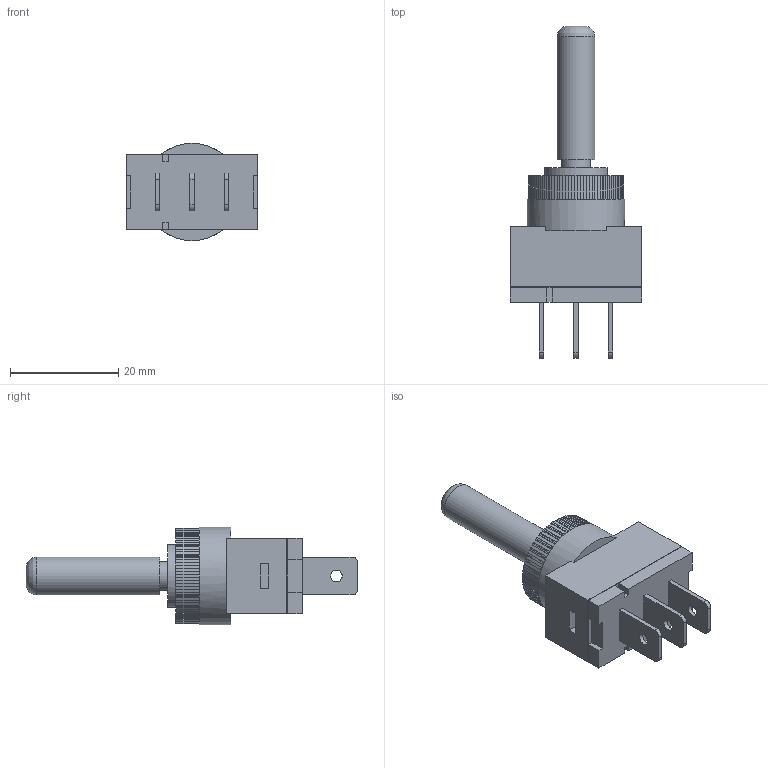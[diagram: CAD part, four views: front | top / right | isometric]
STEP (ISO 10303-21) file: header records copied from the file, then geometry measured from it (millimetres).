
FILE_DESCRIPTION(/* description */ (''),/* implementation_level */ '2;1');
FILE_NAME(/* name */ 'TE4-1A-DC-1-GL.stp',/* time_stamp */ '2025-02-14T09:02:47-08:00',/* author */ ('tylerl'),/* organization */ (''),/* preprocessor_version */ 'ST-DEVELOPER v20',/* originating_system */ 'Autodesk Inventor 2025',/* authorisation */ '');
FILE_SCHEMA (('AUTOMOTIVE_DESIGN { 1 0 10303 214 3 1 1 }'));
Length unit declared in the file: millimetre
Products named in the file (1): Base
Bounding box: 24.4 x 61.45 x 18 mm (x, y, z)
Volume: 8364.1 mm3; surface area: 3815.8 mm2
Topology: 1 solids, 1 shells, 439 faces, 1123 edges, 646 vertices
Faces by surface type: plane 375, cylinder 63, bspline 1
Full cylindrical faces by diameter (mm): 2.15 x3, 5.35 x1, 7 x1, 18 x1
Entity records: 12903 total; most frequent: ORIENTED_EDGE 2246, CARTESIAN_POINT 2235, DIRECTION 2134, EDGE_CURVE 1123, LINE 990, VECTOR 990, VERTEX_POINT 646, AXIS2_PLACEMENT_3D 572
